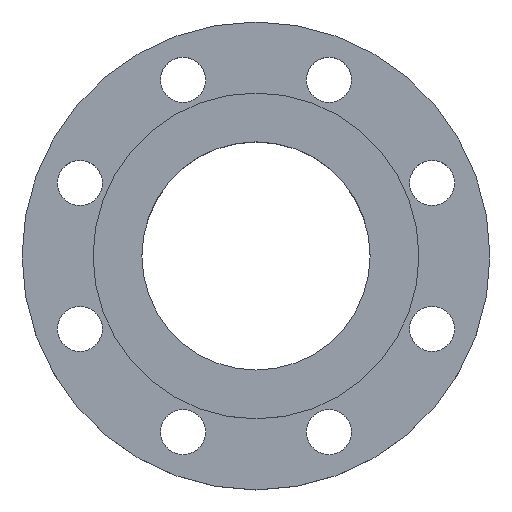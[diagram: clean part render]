
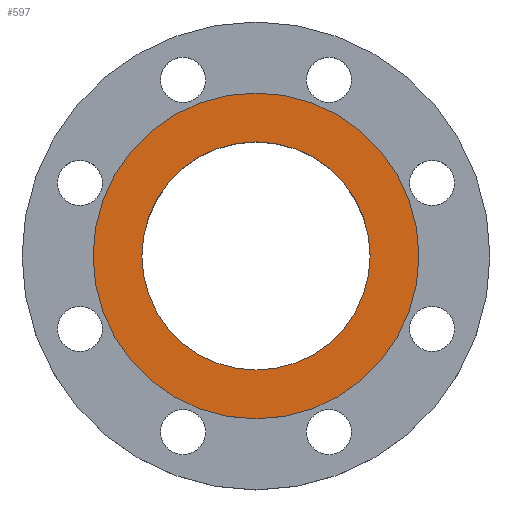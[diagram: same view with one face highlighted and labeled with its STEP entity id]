
A CAD part, top view. The second image highlights one B-rep face of the part: STEP entity #597.
In plain terms, the highlighted planar face has unit normal (0, 0, 1).
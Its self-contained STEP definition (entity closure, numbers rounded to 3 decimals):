
#31 = DIRECTION ( 'NONE',  ( 0., 0., 1. ) ) ;
#37 = DIRECTION ( 'NONE',  ( 0., 0., 1. ) ) ;
#45 = AXIS2_PLACEMENT_3D ( 'NONE', #860, #31, #394 ) ;
#61 = EDGE_LOOP ( 'NONE', ( #1011, #1062 ) ) ;
#64 = CARTESIAN_POINT ( 'NONE',  ( 94., 0., 4. ) ) ;
#155 = FACE_OUTER_BOUND ( 'NONE', #61, .T. ) ;
#164 = AXIS2_PLACEMENT_3D ( 'NONE', #64, #428, #799 ) ;
#248 = DIRECTION ( 'NONE',  ( 0., 0., 1. ) ) ;
#258 = ORIENTED_EDGE ( 'NONE', *, *, #359, .F. ) ;
#293 = DIRECTION ( 'NONE',  ( 1., 0., 0. ) ) ;
#314 = VERTEX_POINT ( 'NONE', #754 ) ;
#341 = ORIENTED_EDGE ( 'NONE', *, *, #839, .F. ) ;
#343 = CIRCLE ( 'NONE', #1013, 65.85 ) ;
#358 = AXIS2_PLACEMENT_3D ( 'NONE', #868, #37, #401 ) ;
#359 = EDGE_CURVE ( 'NONE', #459, #599, #554, .T. ) ;
#394 = DIRECTION ( 'NONE',  ( 1., 0., 0. ) ) ;
#395 = EDGE_CURVE ( 'NONE', #314, #695, #879, .T. ) ;
#401 = DIRECTION ( 'NONE',  ( 1., 0., 0. ) ) ;
#428 = DIRECTION ( 'NONE',  ( 0., 0., 1. ) ) ;
#459 = VERTEX_POINT ( 'NONE', #862 ) ;
#517 = FACE_BOUND ( 'NONE', #962, .T. ) ;
#528 = CIRCLE ( 'NONE', #676, 94. ) ;
#554 = CIRCLE ( 'NONE', #45, 65.85 ) ;
#597 = ADVANCED_FACE ( 'NONE', ( #155, #517 ), #898, .T. ) ;
#599 = VERTEX_POINT ( 'NONE', #1145 ) ;
#605 = DIRECTION ( 'NONE',  ( 1., 0., 0. ) ) ;
#676 = AXIS2_PLACEMENT_3D ( 'NONE', #741, #1100, #293 ) ;
#695 = VERTEX_POINT ( 'NONE', #939 ) ;
#702 = EDGE_CURVE ( 'NONE', #695, #314, #528, .T. ) ;
#741 = CARTESIAN_POINT ( 'NONE',  ( 0., 0., 4. ) ) ;
#754 = CARTESIAN_POINT ( 'NONE',  ( 94., 0., 4. ) ) ;
#799 = DIRECTION ( 'NONE',  ( 1., 0., 0. ) ) ;
#839 = EDGE_CURVE ( 'NONE', #599, #459, #343, .T. ) ;
#860 = CARTESIAN_POINT ( 'NONE',  ( 0., 0., 4. ) ) ;
#862 = CARTESIAN_POINT ( 'NONE',  ( 65.85, 0., 4. ) ) ;
#868 = CARTESIAN_POINT ( 'NONE',  ( 0., 0., 4. ) ) ;
#879 = CIRCLE ( 'NONE', #358, 94. ) ;
#898 = PLANE ( 'NONE',  #164 ) ;
#939 = CARTESIAN_POINT ( 'NONE',  ( -94., 0., 4. ) ) ;
#962 = EDGE_LOOP ( 'NONE', ( #258, #341 ) ) ;
#1011 = ORIENTED_EDGE ( 'NONE', *, *, #395, .T. ) ;
#1013 = AXIS2_PLACEMENT_3D ( 'NONE', #1058, #248, #605 ) ;
#1058 = CARTESIAN_POINT ( 'NONE',  ( 0., 0., 4. ) ) ;
#1062 = ORIENTED_EDGE ( 'NONE', *, *, #702, .T. ) ;
#1100 = DIRECTION ( 'NONE',  ( 0., 0., 1. ) ) ;
#1145 = CARTESIAN_POINT ( 'NONE',  ( -65.85, 0., 4. ) ) ;
